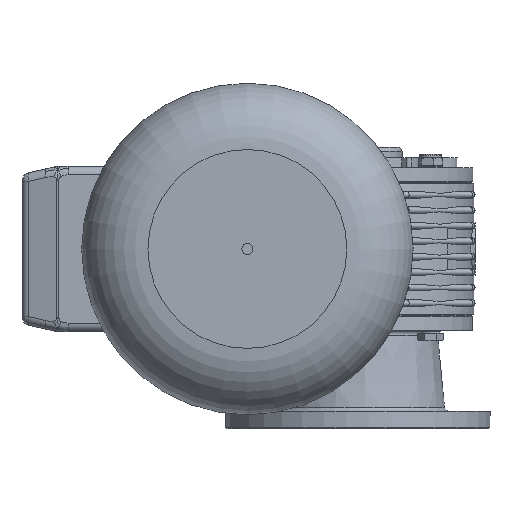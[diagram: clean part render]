
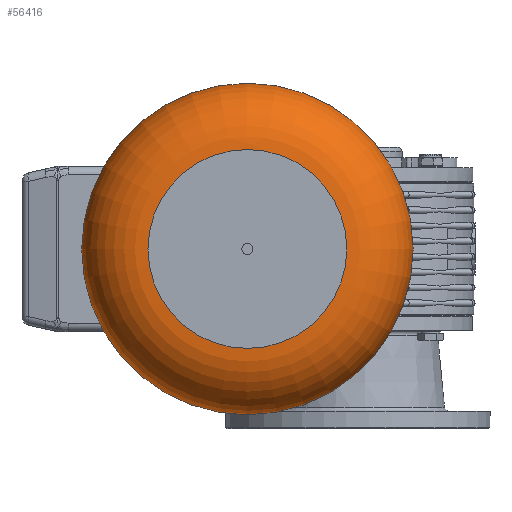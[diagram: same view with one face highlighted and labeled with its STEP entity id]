
A CAD part, left-side view. The second image highlights one B-rep face of the part: STEP entity #56416.
In plain terms, the highlighted toroidal (fillet/blend) face has major radius 45 mm and minor radius 30 mm.
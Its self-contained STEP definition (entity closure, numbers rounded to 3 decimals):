
#56389=CARTESIAN_POINT('',(314.0,0.0,0.0));
#56390=DIRECTION('',(1.0,0.0,0.0));
#56391=DIRECTION('',(0.0,0.0,-1.0));
#56392=AXIS2_PLACEMENT_3D('',#56389,#56390,#56391);
#56393=TOROIDAL_SURFACE('',#56392,45.,30.0);
#56394=CARTESIAN_POINT('',(344.,45.,0.0));
#56395=VERTEX_POINT('',#56394);
#56396=CARTESIAN_POINT('',(344.,0.0,0.0));
#56397=DIRECTION('',(1.0,0.0,0.0));
#56398=DIRECTION('',(0.0,1.0,0.0));
#56399=AXIS2_PLACEMENT_3D('',#56396,#56397,#56398);
#56400=CIRCLE('',#56399,45.);
#56401=EDGE_CURVE('',#56395,#56395,#56400,.T.);
#56402=ORIENTED_EDGE('',*,*,#56401,.F.);
#56403=EDGE_LOOP('',(#56402));
#56404=FACE_OUTER_BOUND('',#56403,.T.);
#56405=CARTESIAN_POINT('',(314.0,75.,0.0));
#56406=VERTEX_POINT('',#56405);
#56407=CARTESIAN_POINT('',(314.0,0.0,0.0));
#56408=DIRECTION('',(1.0,0.0,0.0));
#56409=DIRECTION('',(0.0,1.0,0.0));
#56410=AXIS2_PLACEMENT_3D('',#56407,#56408,#56409);
#56411=CIRCLE('',#56410,75.);
#56412=EDGE_CURVE('',#56406,#56406,#56411,.T.);
#56413=ORIENTED_EDGE('',*,*,#56412,.T.);
#56414=EDGE_LOOP('',(#56413));
#56415=FACE_BOUND('',#56414,.T.);
#56416=ADVANCED_FACE('',(#56404,#56415),#56393,.T.);
